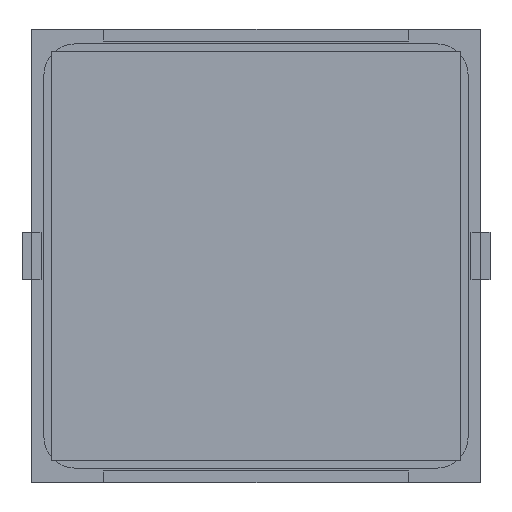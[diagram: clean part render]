
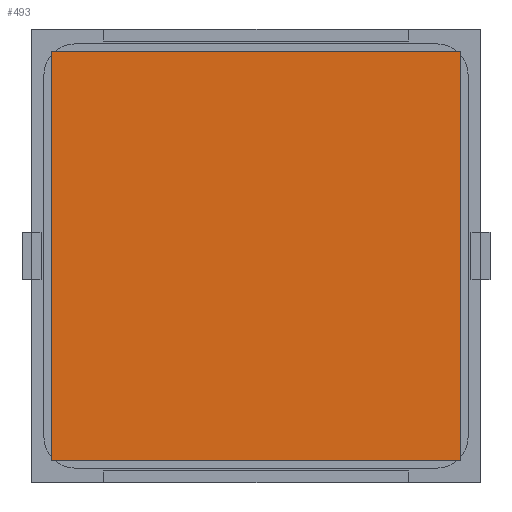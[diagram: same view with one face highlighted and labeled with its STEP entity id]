
A CAD part, front view. The second image highlights one B-rep face of the part: STEP entity #493.
In plain terms, the highlighted planar face has unit normal (0, -1, 0).
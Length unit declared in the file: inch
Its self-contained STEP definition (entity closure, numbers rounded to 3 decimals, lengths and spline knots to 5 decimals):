
#493 = ADVANCED_FACE ( 'NONE', ( #8719 ), #11744, .F. ) ;
#1756 = CARTESIAN_POINT ( 'NONE',  ( -0.84646, -0.005, -0.84646 ) ) ;
#1821 = CARTESIAN_POINT ( 'NONE',  ( -0.84646, -0.005, 0.84646 ) ) ;
#1964 = VECTOR ( 'NONE', #9733, 39.37008 ) ;
#1969 = DIRECTION ( 'NONE',  ( 0., 1., 0. ) ) ;
#2552 = VERTEX_POINT ( 'NONE', #1821 ) ;
#3344 = EDGE_CURVE ( 'NONE', #13003, #4266, #7096, .T. ) ;
#3474 = VECTOR ( 'NONE', #7191, 39.37008 ) ;
#3572 = CARTESIAN_POINT ( 'NONE',  ( -0.84646, -0.005, 0.84646 ) ) ;
#4089 = VECTOR ( 'NONE', #11147, 39.37008 ) ;
#4126 = EDGE_CURVE ( 'NONE', #4266, #2552, #9681, .T. ) ;
#4266 = VERTEX_POINT ( 'NONE', #7577 ) ;
#4354 = ORIENTED_EDGE ( 'NONE', *, *, #7175, .F. ) ;
#4462 = ORIENTED_EDGE ( 'NONE', *, *, #3344, .F. ) ;
#4582 = LINE ( 'NONE', #3572, #1964 ) ;
#4593 = DIRECTION ( 'NONE',  ( 0., 0., 1. ) ) ;
#5056 = CARTESIAN_POINT ( 'NONE',  ( 0.84646, -0.005, -0.84646 ) ) ;
#5991 = VECTOR ( 'NONE', #4593, 39.37008 ) ;
#6037 = DIRECTION ( 'NONE',  ( 0., 0., 1. ) ) ;
#6543 = CARTESIAN_POINT ( 'NONE',  ( 0.84646, -0.005, 0.84646 ) ) ;
#7096 = LINE ( 'NONE', #1756, #4089 ) ;
#7175 = EDGE_CURVE ( 'NONE', #2552, #9297, #4582, .T. ) ;
#7191 = DIRECTION ( 'NONE',  ( 0., 0., -1. ) ) ;
#7577 = CARTESIAN_POINT ( 'NONE',  ( -0.84646, -0.005, -0.84646 ) ) ;
#7997 = LINE ( 'NONE', #5056, #3474 ) ;
#8097 = CARTESIAN_POINT ( 'NONE',  ( 0.84646, -0.005, -0.84646 ) ) ;
#8193 = EDGE_CURVE ( 'NONE', #9297, #13003, #7997, .T. ) ;
#8719 = FACE_OUTER_BOUND ( 'NONE', #10162, .T. ) ;
#8924 = ORIENTED_EDGE ( 'NONE', *, *, #4126, .F. ) ;
#8946 = ORIENTED_EDGE ( 'NONE', *, *, #8193, .F. ) ;
#9297 = VERTEX_POINT ( 'NONE', #6543 ) ;
#9539 = CARTESIAN_POINT ( 'NONE',  ( -0.84646, -0.005, -0.84646 ) ) ;
#9681 = LINE ( 'NONE', #9539, #5991 ) ;
#9733 = DIRECTION ( 'NONE',  ( 1., 0., 0. ) ) ;
#10162 = EDGE_LOOP ( 'NONE', ( #8924, #4462, #8946, #4354 ) ) ;
#11147 = DIRECTION ( 'NONE',  ( -1., 0., 0. ) ) ;
#11544 = AXIS2_PLACEMENT_3D ( 'NONE', #13006, #1969, #6037 ) ;
#11744 = PLANE ( 'NONE',  #11544 ) ;
#13003 = VERTEX_POINT ( 'NONE', #8097 ) ;
#13006 = CARTESIAN_POINT ( 'NONE',  ( -0.84646, -0.005, 0.84646 ) ) ;
